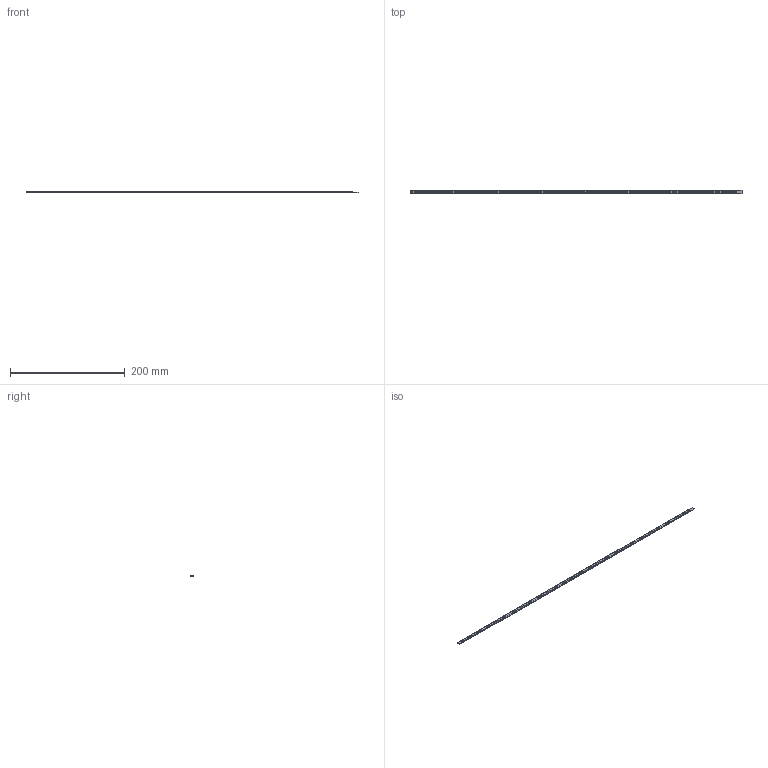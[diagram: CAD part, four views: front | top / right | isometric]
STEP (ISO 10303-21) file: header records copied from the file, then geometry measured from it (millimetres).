
FILE_DESCRIPTION (( 'STEP AP214' ), '1' );
FILE_NAME ('BXEB-TL-L0570A (15-000763 revB).STEP', '2020-11-12T04:21:27', ( '' ), ( '' ), 'SwSTEP 2.0', 'SolidWorks 2020', '' );
FILE_SCHEMA (( 'AUTOMOTIVE_DESIGN' ));
Length unit declared in the file: millimetre
Products named in the file (1): BXEB-TL-L0570A (15-000763 revB)
Bounding box: 579.8 x 6 x 1.8 mm (x, y, z)
Volume: 4443.3 mm3; surface area: 15567.2 mm2
Topology: 3 solids, 3 shells, 1914 faces, 4941 edges, 3294 vertices
Faces by surface type: plane 1417, bspline 494, cylinder 3
Full cylindrical faces by diameter (mm): 0.179 x1, 0.209 x1, 1.2 x1
Entity records: 97259 total; most frequent: CARTESIAN_POINT 33417, ORIENTED_EDGE 9868, DIRECTION 6794, EDGE_CURVE 4934, VECTOR 3940, LINE 3940, VERTEX_POINT 3294, EDGE_LOOP 2182
